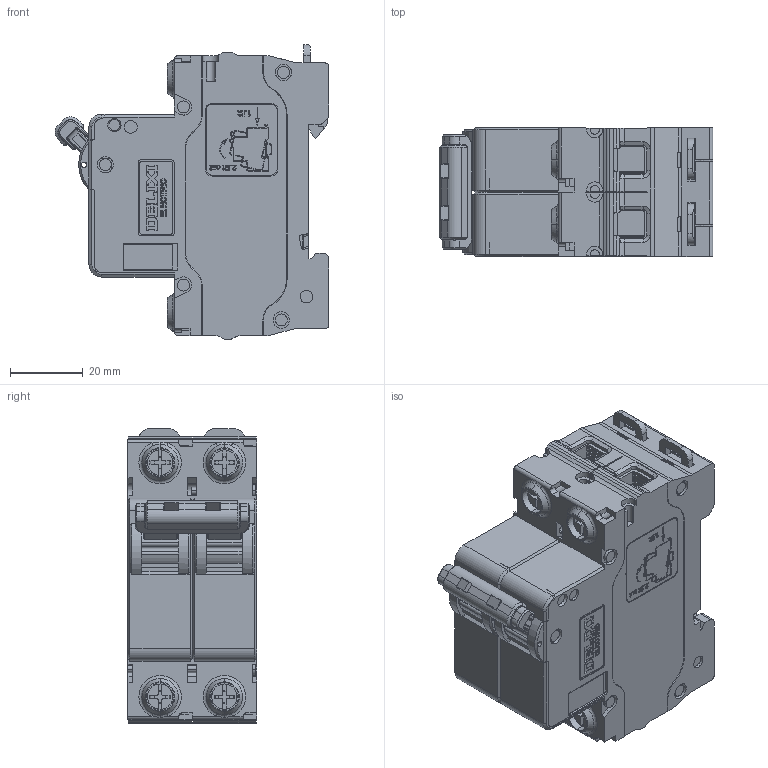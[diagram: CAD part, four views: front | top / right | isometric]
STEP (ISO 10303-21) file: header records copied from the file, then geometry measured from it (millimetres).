
FILE_DESCRIPTION((''),'2;1');
FILE_NAME('2253006300_ASM_SW0001','2019-07-17T',('xiao.wang'),(''),'PRO/ENGINEER BY PARAMETRIC TECHNOLOGY CORPORATION, 2015440','PRO/ENGINEER BY PARAMETRIC TECHNOLOGY CORPORATION, 2015440','');
FILE_SCHEMA(('CONFIG_CONTROL_DESIGN'));
Products named in the file (1): 2253006300_ASM_SW0001
Bounding box: 75.31 x 35.55 x 81 mm (x, y, z)
Volume: 132426.8 mm3; surface area: 44626.3 mm2
Topology: 1 solids, 4 shells, 5768 faces, 16155 edges, 10631 vertices
Faces by surface type: plane 3973, cylinder 949, extrusion 530, cone 220, torus 62, bspline 28, sphere 6
Entity records: 189505 total; most frequent: CARTESIAN_POINT 41606, ORIENTED_EDGE 32278, DIRECTION 27988, EDGE_CURVE 16139, VECTOR 12756, LINE 12226, VERTEX_POINT 10631, AXIS2_PLACEMENT_3D 7616
